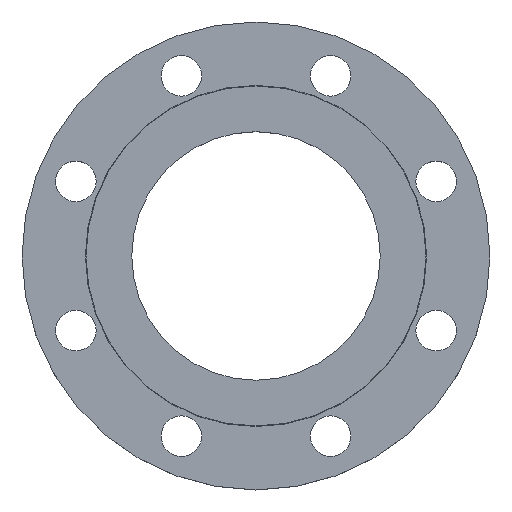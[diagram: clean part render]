
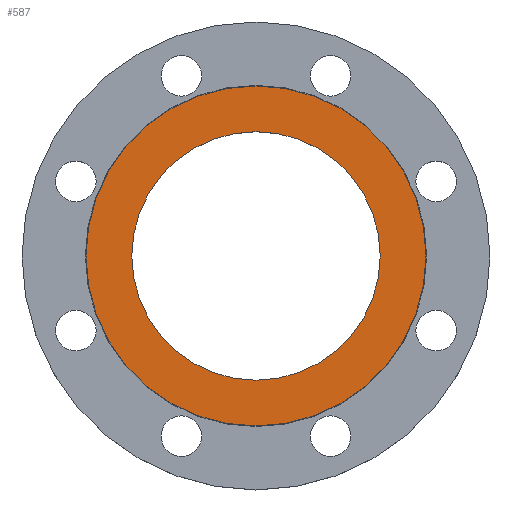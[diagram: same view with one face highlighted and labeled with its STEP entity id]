
A CAD part, top view. The second image highlights one B-rep face of the part: STEP entity #587.
In plain terms, the highlighted planar face has unit normal (0, 0, 1).
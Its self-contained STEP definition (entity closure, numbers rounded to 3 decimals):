
#69 = VERTEX_POINT ( 'NONE', #762 ) ;
#71 = EDGE_CURVE ( 'NONE', #624, #963, #569, .T. ) ;
#81 = CARTESIAN_POINT ( 'NONE',  ( 0., 0., 0. ) ) ;
#104 = DIRECTION ( 'NONE',  ( 1., 0., 0. ) ) ;
#112 = VERTEX_POINT ( 'NONE', #705 ) ;
#148 = ORIENTED_EDGE ( 'NONE', *, *, #554, .F. ) ;
#192 = DIRECTION ( 'NONE',  ( 0., 0., -1. ) ) ;
#195 = CARTESIAN_POINT ( 'NONE',  ( 0., 0., 0. ) ) ;
#205 = AXIS2_PLACEMENT_3D ( 'NONE', #855, #192, #512 ) ;
#223 = EDGE_CURVE ( 'NONE', #69, #112, #258, .T. ) ;
#258 = CIRCLE ( 'NONE', #377, 79.65 ) ;
#261 = CARTESIAN_POINT ( 'NONE',  ( 109., 0., 0. ) ) ;
#265 = CIRCLE ( 'NONE', #299, 79.65 ) ;
#267 = FACE_BOUND ( 'NONE', #953, .T. ) ;
#289 = AXIS2_PLACEMENT_3D ( 'NONE', #195, #516, #792 ) ;
#299 = AXIS2_PLACEMENT_3D ( 'NONE', #955, #312, #625 ) ;
#312 = DIRECTION ( 'NONE',  ( 0., 0., 1. ) ) ;
#360 = AXIS2_PLACEMENT_3D ( 'NONE', #81, #403, #698 ) ;
#377 = AXIS2_PLACEMENT_3D ( 'NONE', #509, #785, #104 ) ;
#378 = ORIENTED_EDGE ( 'NONE', *, *, #71, .F. ) ;
#403 = DIRECTION ( 'NONE',  ( 0., 0., -1. ) ) ;
#509 = CARTESIAN_POINT ( 'NONE',  ( 0., 0., 0. ) ) ;
#512 = DIRECTION ( 'NONE',  ( -1., 0., 0. ) ) ;
#516 = DIRECTION ( 'NONE',  ( 0., 0., 1. ) ) ;
#554 = EDGE_CURVE ( 'NONE', #963, #624, #870, .T. ) ;
#569 = CIRCLE ( 'NONE', #360, 109. ) ;
#587 = ADVANCED_FACE ( 'NONE', ( #267, #593 ), #860, .T. ) ;
#593 = FACE_OUTER_BOUND ( 'NONE', #597, .T. ) ;
#597 = EDGE_LOOP ( 'NONE', ( #378, #148 ) ) ;
#624 = VERTEX_POINT ( 'NONE', #936 ) ;
#625 = DIRECTION ( 'NONE',  ( 1., 0., 0. ) ) ;
#698 = DIRECTION ( 'NONE',  ( -1., 0., 0. ) ) ;
#705 = CARTESIAN_POINT ( 'NONE',  ( -79.65, 0., 0. ) ) ;
#762 = CARTESIAN_POINT ( 'NONE',  ( 79.65, 0., 0. ) ) ;
#785 = DIRECTION ( 'NONE',  ( 0., 0., 1. ) ) ;
#792 = DIRECTION ( 'NONE',  ( 1., 0., 0. ) ) ;
#803 = ORIENTED_EDGE ( 'NONE', *, *, #223, .F. ) ;
#807 = EDGE_CURVE ( 'NONE', #112, #69, #265, .T. ) ;
#812 = ORIENTED_EDGE ( 'NONE', *, *, #807, .F. ) ;
#855 = CARTESIAN_POINT ( 'NONE',  ( 0., 0., 0. ) ) ;
#860 = PLANE ( 'NONE',  #289 ) ;
#870 = CIRCLE ( 'NONE', #205, 109. ) ;
#936 = CARTESIAN_POINT ( 'NONE',  ( -109., 0., 0. ) ) ;
#953 = EDGE_LOOP ( 'NONE', ( #803, #812 ) ) ;
#955 = CARTESIAN_POINT ( 'NONE',  ( 0., 0., 0. ) ) ;
#963 = VERTEX_POINT ( 'NONE', #261 ) ;
